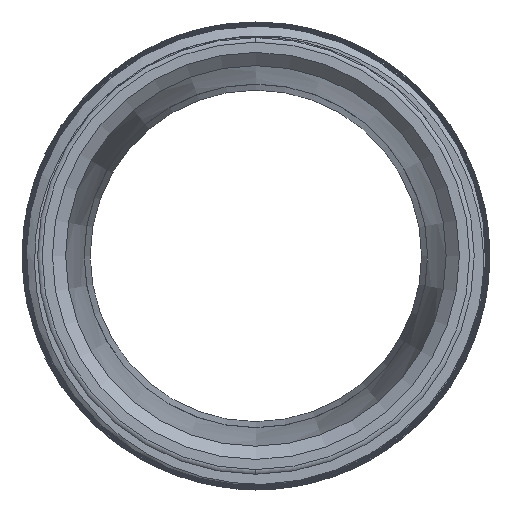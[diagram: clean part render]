
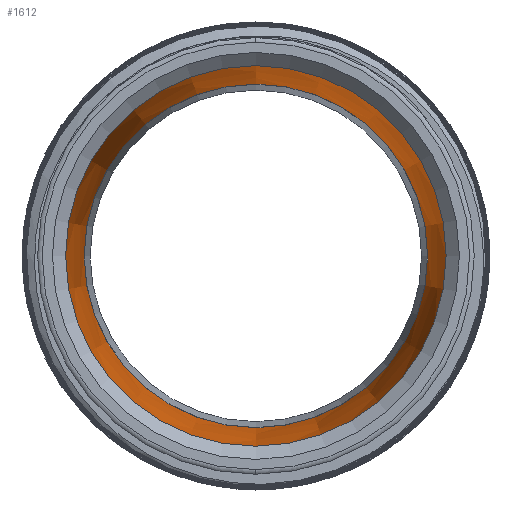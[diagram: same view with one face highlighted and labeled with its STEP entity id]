
A CAD part, left-side view. The second image highlights one B-rep face of the part: STEP entity #1612.
In plain terms, the highlighted conical face has half-angle 5 degrees and reference radius 36.068 mm.
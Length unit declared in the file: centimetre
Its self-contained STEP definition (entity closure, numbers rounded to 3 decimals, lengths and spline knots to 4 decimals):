
#430=CONICAL_SURFACE('',#1719,3.6068,0.087);
#464=VERTEX_POINT('',#2202);
#468=VERTEX_POINT('',#2212);
#621=CIRCLE('',#1714,3.5869);
#625=CIRCLE('',#1720,3.2424);
#669=EDGE_CURVE('',#464,#464,#621,.T.);
#673=EDGE_CURVE('',#468,#468,#625,.T.);
#908=ORIENTED_EDGE('',*,*,#673,.F.);
#909=ORIENTED_EDGE('',*,*,#669,.F.);
#1371=EDGE_LOOP('',(#908));
#1372=EDGE_LOOP('',(#909));
#1494=FACE_BOUND('',#1371,.T.);
#1495=FACE_BOUND('',#1372,.T.);
#1612=ADVANCED_FACE('',(#1494,#1495),#430,.F.);
#1714=AXIS2_PLACEMENT_3D('',#2201,#1861,#1862);
#1719=AXIS2_PLACEMENT_3D('',#2210,#1870,#1871);
#1720=AXIS2_PLACEMENT_3D('',#2211,#1872,#1873);
#1861=DIRECTION('',(1.,0.,0.));
#1862=DIRECTION('',(0.,0.,-3.587));
#1870=DIRECTION('',(-1.,0.,0.));
#1871=DIRECTION('',(0.,0.,3.607));
#1872=DIRECTION('',(-1.,0.,0.));
#1873=DIRECTION('',(0.,0.,3.242));
#2201=CARTESIAN_POINT('',(-7.3601,0.,0.));
#2202=CARTESIAN_POINT('',(-7.3601,0.,3.5869));
#2210=CARTESIAN_POINT('',(-7.5878,0.,0.));
#2211=CARTESIAN_POINT('',(-3.4222,0.,0.));
#2212=CARTESIAN_POINT('',(-3.4222,0.,3.2424));
